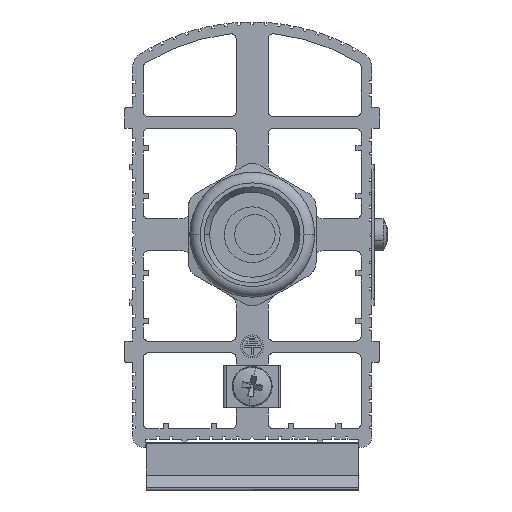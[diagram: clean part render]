
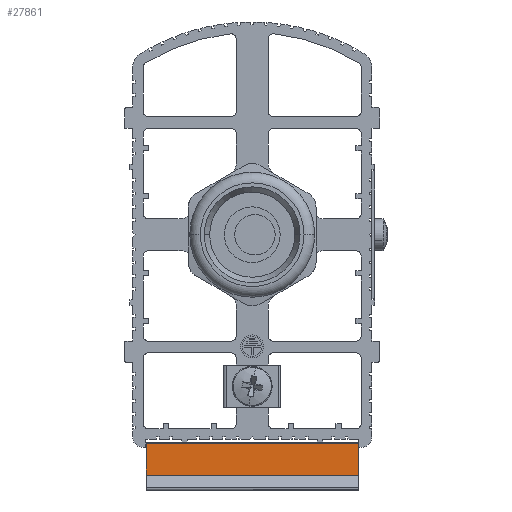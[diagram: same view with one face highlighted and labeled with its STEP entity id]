
A CAD part, front view. The second image highlights one B-rep face of the part: STEP entity #27861.
In plain terms, the highlighted planar face has unit normal (0, -1, 0).
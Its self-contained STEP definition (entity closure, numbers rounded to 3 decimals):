
#12 = ORIENTED_EDGE ( 'NONE', *, *, #11726, .T. ) ;
#1841 = VECTOR ( 'NONE', #33541, 1000. ) ;
#5822 = CARTESIAN_POINT ( 'NONE',  ( 19.95, 35.14, -45.191 ) ) ;
#5868 = EDGE_CURVE ( 'NONE', #24177, #30866, #23929, .T. ) ;
#6971 = CARTESIAN_POINT ( 'NONE',  ( 19.95, 35.14, -39.3 ) ) ;
#7038 = DIRECTION ( 'NONE',  ( 0., 1., 0. ) ) ;
#7284 = CARTESIAN_POINT ( 'NONE',  ( -19.95, 35.14, -45.191 ) ) ;
#7725 = VERTEX_POINT ( 'NONE', #11507 ) ;
#8722 = VECTOR ( 'NONE', #34978, 1000. ) ;
#9771 = CARTESIAN_POINT ( 'NONE',  ( -19.95, 35.14, -45.271 ) ) ;
#11507 = CARTESIAN_POINT ( 'NONE',  ( 19.95, 35.14, -45.191 ) ) ;
#11726 = EDGE_CURVE ( 'NONE', #30866, #21965, #31816, .T. ) ;
#15198 = CARTESIAN_POINT ( 'NONE',  ( 19.95, 35.14, -45.271 ) ) ;
#15434 = CARTESIAN_POINT ( 'NONE',  ( -980.05, 35.14, -45.271 ) ) ;
#18141 = ORIENTED_EDGE ( 'NONE', *, *, #34834, .T. ) ;
#21302 = LINE ( 'NONE', #5822, #1841 ) ;
#21453 = AXIS2_PLACEMENT_3D ( 'NONE', #15434, #7038, #23551 ) ;
#21783 = FACE_OUTER_BOUND ( 'NONE', #22807, .T. ) ;
#21965 = VERTEX_POINT ( 'NONE', #7284 ) ;
#22807 = EDGE_LOOP ( 'NONE', ( #27245, #12, #18141, #30480 ) ) ;
#23551 = DIRECTION ( 'NONE',  ( 0., 0., -1. ) ) ;
#23929 = LINE ( 'NONE', #29244, #8722 ) ;
#24101 = CARTESIAN_POINT ( 'NONE',  ( -19.95, 35.14, -39.3 ) ) ;
#24177 = VERTEX_POINT ( 'NONE', #6971 ) ;
#26341 = VECTOR ( 'NONE', #28689, 1000. ) ;
#27245 = ORIENTED_EDGE ( 'NONE', *, *, #5868, .T. ) ;
#27861 = ADVANCED_FACE ( 'NONE', ( #21783 ), #33572, .F. ) ;
#28689 = DIRECTION ( 'NONE',  ( 0., 0., 1. ) ) ;
#29244 = CARTESIAN_POINT ( 'NONE',  ( -980.05, 35.14, -39.3 ) ) ;
#30480 = ORIENTED_EDGE ( 'NONE', *, *, #30777, .T. ) ;
#30777 = EDGE_CURVE ( 'NONE', #7725, #24177, #34726, .T. ) ;
#30866 = VERTEX_POINT ( 'NONE', #24101 ) ;
#31356 = DIRECTION ( 'NONE',  ( 0., 0., -1. ) ) ;
#31816 = LINE ( 'NONE', #9771, #33062 ) ;
#33062 = VECTOR ( 'NONE', #31356, 1000. ) ;
#33541 = DIRECTION ( 'NONE',  ( 1., 0., 0. ) ) ;
#33572 = PLANE ( 'NONE',  #21453 ) ;
#34726 = LINE ( 'NONE', #15198, #26341 ) ;
#34834 = EDGE_CURVE ( 'NONE', #21965, #7725, #21302, .T. ) ;
#34978 = DIRECTION ( 'NONE',  ( -1., 0., 0. ) ) ;
